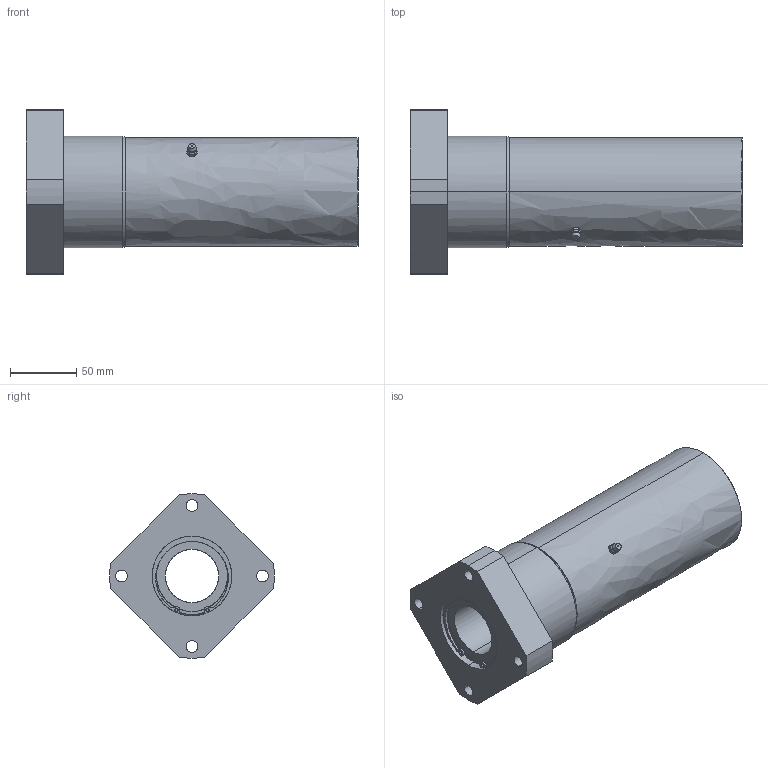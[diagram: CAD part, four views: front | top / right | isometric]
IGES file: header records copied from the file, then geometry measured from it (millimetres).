
Global section: file name: No Iges File Name specified; native system: AutoDesk Inventor R10; preprocessor: AutoDesk Inventor Iges Exporter R10; author: No Author specified; organization: No Organization specified; date: 20101214.140948; units: millimetre
Bounding box: 250 x 123.84 x 124 mm (x, y, z)
Surface area: 132541.6 mm2 (no closed solid volume)
Topology: 0 solids, 0 shells, 159 faces, 1088 edges, 1086 vertices
Faces by surface type: bspline 159
